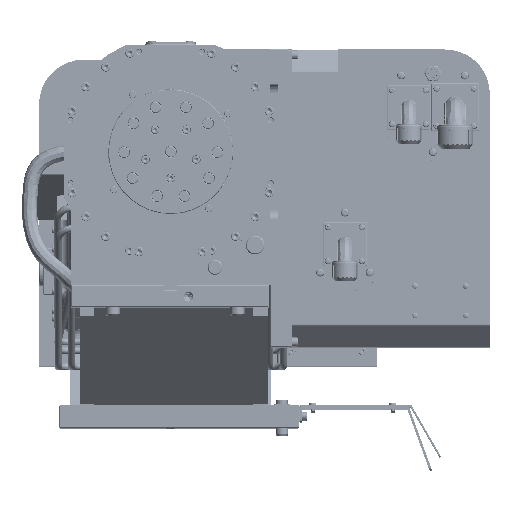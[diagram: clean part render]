
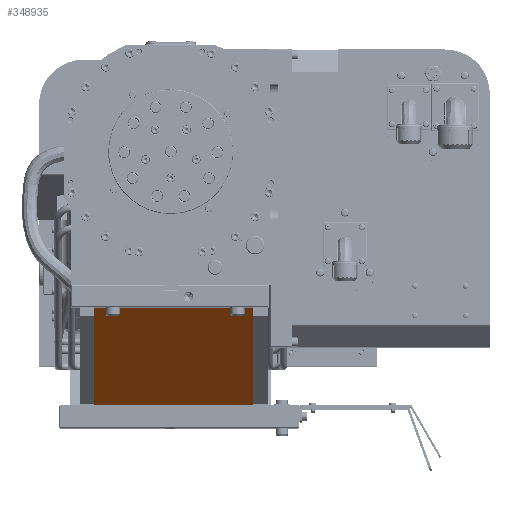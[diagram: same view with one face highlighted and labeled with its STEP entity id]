
A CAD part, top view. The second image highlights one B-rep face of the part: STEP entity #348935.
In plain terms, the highlighted planar face has unit normal (0, -0.723, 0.691) as drawn and (-0.691, -0.723, 0) by its records, which use the part's own axes.
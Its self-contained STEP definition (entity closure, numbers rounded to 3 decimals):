
#3057 = FACE_OUTER_BOUND ( 'NONE', #435789, .T. ) ;
#48500 = EDGE_CURVE ( 'NONE', #470196, #300056, #202662, .T. ) ;
#71255 = DIRECTION ( 'NONE',  ( 0., 0., 1. ) ) ;
#90833 = ORIENTED_EDGE ( 'NONE', *, *, #48500, .T. ) ;
#106468 = DIRECTION ( 'NONE',  ( 0., 0., 1. ) ) ;
#109517 = CARTESIAN_POINT ( 'NONE',  ( -304.629, 135., -36. ) ) ;
#127625 = ORIENTED_EDGE ( 'NONE', *, *, #151758, .T. ) ;
#129235 = LINE ( 'NONE', #257919, #134646 ) ;
#129523 = EDGE_CURVE ( 'NONE', #426434, #312024, #195847, .T. ) ;
#134646 = VECTOR ( 'NONE', #252483, 1000. ) ;
#151758 = EDGE_CURVE ( 'NONE', #300056, #312024, #503063, .T. ) ;
#190342 = CARTESIAN_POINT ( 'NONE',  ( -304.629, 135., -41.313 ) ) ;
#195847 = LINE ( 'NONE', #190342, #503482 ) ;
#202662 = LINE ( 'NONE', #546358, #526631 ) ;
#241398 = EDGE_CURVE ( 'NONE', #426434, #470196, #129235, .T. ) ;
#248816 = CARTESIAN_POINT ( 'NONE',  ( -189.734, 25.1, 143. ) ) ;
#249312 = CARTESIAN_POINT ( 'NONE',  ( -189.734, 25.1, -194.7 ) ) ;
#252114 = DIRECTION ( 'NONE',  ( -0.691, -0.723, 0. ) ) ;
#252483 = DIRECTION ( 'NONE',  ( 0.723, -0.691, 0. ) ) ;
#257069 = DIRECTION ( 'NONE',  ( -0.723, 0.691, 0. ) ) ;
#257919 = CARTESIAN_POINT ( 'NONE',  ( -189.734, 25.1, -36. ) ) ;
#293960 = PLANE ( 'NONE',  #531075 ) ;
#300056 = VERTEX_POINT ( 'NONE', #463912 ) ;
#312024 = VERTEX_POINT ( 'NONE', #518499 ) ;
#321239 = CARTESIAN_POINT ( 'NONE',  ( -189.734, 25.1, -36. ) ) ;
#335850 = DIRECTION ( 'NONE',  ( 0.723, -0.691, 0. ) ) ;
#348935 = ADVANCED_FACE ( 'NONE', ( #3057 ), #293960, .T. ) ;
#426434 = VERTEX_POINT ( 'NONE', #109517 ) ;
#435789 = EDGE_LOOP ( 'NONE', ( #127625, #445886, #472873, #90833 ) ) ;
#445886 = ORIENTED_EDGE ( 'NONE', *, *, #129523, .F. ) ;
#463912 = CARTESIAN_POINT ( 'NONE',  ( -189.734, 25.1, 143. ) ) ;
#470196 = VERTEX_POINT ( 'NONE', #321239 ) ;
#472873 = ORIENTED_EDGE ( 'NONE', *, *, #241398, .T. ) ;
#485133 = VECTOR ( 'NONE', #257069, 1000. ) ;
#503063 = LINE ( 'NONE', #248816, #485133 ) ;
#503482 = VECTOR ( 'NONE', #106468, 1000. ) ;
#518499 = CARTESIAN_POINT ( 'NONE',  ( -304.629, 135., 143. ) ) ;
#526631 = VECTOR ( 'NONE', #71255, 1000. ) ;
#531075 = AXIS2_PLACEMENT_3D ( 'NONE', #249312, #252114, #335850 ) ;
#546358 = CARTESIAN_POINT ( 'NONE',  ( -189.734, 25.1, -41.313 ) ) ;
